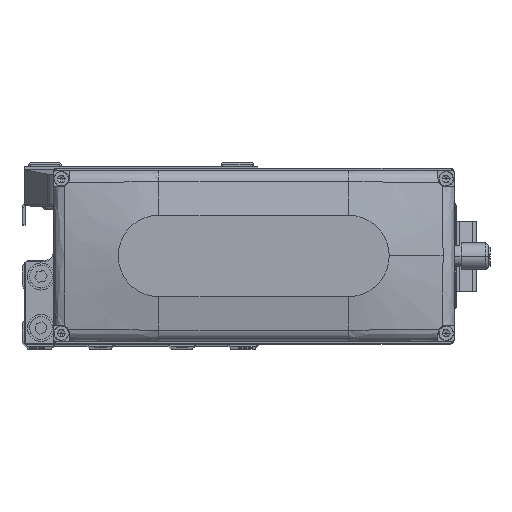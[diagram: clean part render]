
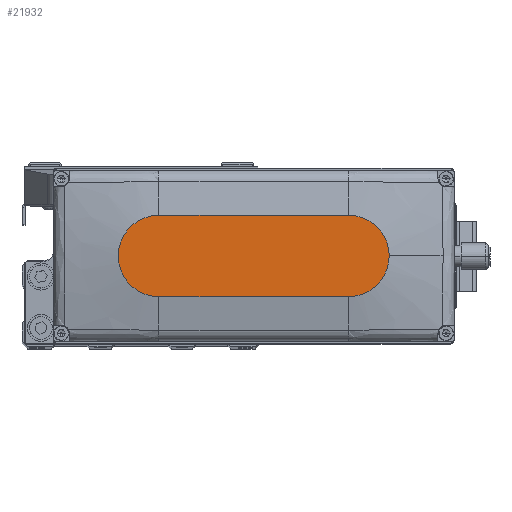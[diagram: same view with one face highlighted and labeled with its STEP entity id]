
A CAD part, top view. The second image highlights one B-rep face of the part: STEP entity #21932.
In plain terms, the highlighted planar face has unit normal (0, 0, 1).
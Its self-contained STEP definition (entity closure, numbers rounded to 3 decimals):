
#2509 = EDGE_LOOP ( 'NONE', ( #32295, #28217, #9523, #41774, #30571 ) ) ;
#4439 = AXIS2_PLACEMENT_3D ( 'NONE', #14874, #29306, #43707 ) ;
#4806 = VERTEX_POINT ( 'NONE', #38368 ) ;
#6262 = VERTEX_POINT ( 'NONE', #31820 ) ;
#6344 = DIRECTION ( 'NONE',  ( 0., 0., 1. ) ) ;
#7407 = CARTESIAN_POINT ( 'NONE',  ( -35., -15., 35. ) ) ;
#7483 = CIRCLE ( 'NONE', #33888, 15. ) ;
#9523 = ORIENTED_EDGE ( 'NONE', *, *, #13088, .T. ) ;
#9914 = VERTEX_POINT ( 'NONE', #39941 ) ;
#10070 = DIRECTION ( 'NONE',  ( 0., 0., 1. ) ) ;
#10624 = VECTOR ( 'NONE', #10810, 1000. ) ;
#10810 = DIRECTION ( 'NONE',  ( -1., 0., 0. ) ) ;
#11717 = DIRECTION ( 'NONE',  ( 1., 0., 0. ) ) ;
#13088 = EDGE_CURVE ( 'NONE', #27536, #4806, #31133, .T. ) ;
#13153 = DIRECTION ( 'NONE',  ( 1., 0., 0. ) ) ;
#13612 = FACE_OUTER_BOUND ( 'NONE', #2509, .T. ) ;
#14874 = CARTESIAN_POINT ( 'NONE',  ( 35., 0., 35. ) ) ;
#19933 = EDGE_CURVE ( 'NONE', #4806, #28865, #24819, .T. ) ;
#20168 = EDGE_CURVE ( 'NONE', #28865, #9914, #7483, .T. ) ;
#20327 = CIRCLE ( 'NONE', #31734, 15. ) ;
#20737 = DIRECTION ( 'NONE',  ( 1., 0., 0. ) ) ;
#21932 = ADVANCED_FACE ( 'NONE', ( #13612 ), #28043, .T. ) ;
#24486 = DIRECTION ( 'NONE',  ( 1., 0., 0. ) ) ;
#24819 = CIRCLE ( 'NONE', #4439, 15. ) ;
#25588 = CARTESIAN_POINT ( 'NONE',  ( 50., 0., 35. ) ) ;
#27536 = VERTEX_POINT ( 'NONE', #7407 ) ;
#27543 = VECTOR ( 'NONE', #13153, 1000. ) ;
#28043 = PLANE ( 'NONE',  #37437 ) ;
#28217 = ORIENTED_EDGE ( 'NONE', *, *, #35112, .T. ) ;
#28772 = LINE ( 'NONE', #43188, #10624 ) ;
#28865 = VERTEX_POINT ( 'NONE', #25588 ) ;
#29306 = DIRECTION ( 'NONE',  ( 0., 0., 1. ) ) ;
#29696 = CARTESIAN_POINT ( 'NONE',  ( -35., 0., 35. ) ) ;
#30571 = ORIENTED_EDGE ( 'NONE', *, *, #20168, .T. ) ;
#31133 = LINE ( 'NONE', #45551, #27543 ) ;
#31734 = AXIS2_PLACEMENT_3D ( 'NONE', #29696, #44102, #11717 ) ;
#31820 = CARTESIAN_POINT ( 'NONE',  ( -35., 15., 35. ) ) ;
#32295 = ORIENTED_EDGE ( 'NONE', *, *, #36298, .T. ) ;
#33888 = AXIS2_PLACEMENT_3D ( 'NONE', #38709, #6344, #20737 ) ;
#35112 = EDGE_CURVE ( 'NONE', #6262, #27536, #20327, .T. ) ;
#36298 = EDGE_CURVE ( 'NONE', #9914, #6262, #28772, .T. ) ;
#37437 = AXIS2_PLACEMENT_3D ( 'NONE', #42453, #10070, #24486 ) ;
#38368 = CARTESIAN_POINT ( 'NONE',  ( 35., -15., 35. ) ) ;
#38709 = CARTESIAN_POINT ( 'NONE',  ( 35., 0., 35. ) ) ;
#39941 = CARTESIAN_POINT ( 'NONE',  ( 35., 15., 35. ) ) ;
#41774 = ORIENTED_EDGE ( 'NONE', *, *, #19933, .T. ) ;
#42453 = CARTESIAN_POINT ( 'NONE',  ( 0., 0., 35. ) ) ;
#43188 = CARTESIAN_POINT ( 'NONE',  ( -35., 15., 35. ) ) ;
#43707 = DIRECTION ( 'NONE',  ( 1., 0., 0. ) ) ;
#44102 = DIRECTION ( 'NONE',  ( 0., 0., 1. ) ) ;
#45551 = CARTESIAN_POINT ( 'NONE',  ( -35., -15., 35. ) ) ;
